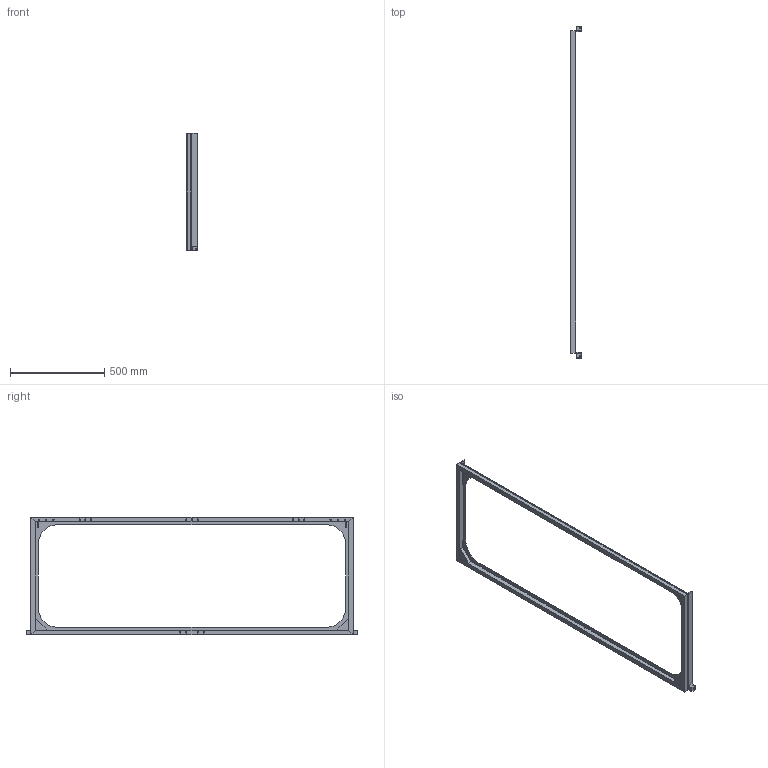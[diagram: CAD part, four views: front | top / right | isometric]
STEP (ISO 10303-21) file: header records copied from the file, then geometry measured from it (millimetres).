
FILE_DESCRIPTION(('FreeCAD Model'),'2;1');
FILE_NAME('Open CASCADE Shape Model','2026-10-06T09:33:39',('FreeCAD'),( 'FreeCAD'),'Open CASCADE STEP processor 7.8','FreeCAD','Unknown');
FILE_SCHEMA(('AUTOMOTIVE_DESIGN { 1 0 10303 214 1 1 1 1 }'));
Length unit declared in the file: millimetre
Products named in the file (1): Open CASCADE STEP translator 7.8 84
Bounding box: 58.48 x 1765.6 x 626 mm (x, y, z)
Volume: 2132255.1 mm3; surface area: 1302675.1 mm2
Topology: 12 solids, 12 shells, 202 faces, 538 edges, 356 vertices
Faces by surface type: plane 98, cylinder 83, cone 15, torus 6
Full cylindrical faces by diameter (mm): 6 x4, 6.6 x45, 6.8 x12, 9.625 x2, 10.325 x2, 19.4 x4
Entity records: 7102 total; most frequent: CARTESIAN_POINT 1599, DIRECTION 1130, ORIENTED_EDGE 1076, EDGE_CURVE 538, AXIS2_PLACEMENT_3D 401, VERTEX_POINT 356, FACE_BOUND 348, EDGE_LOOP 348
